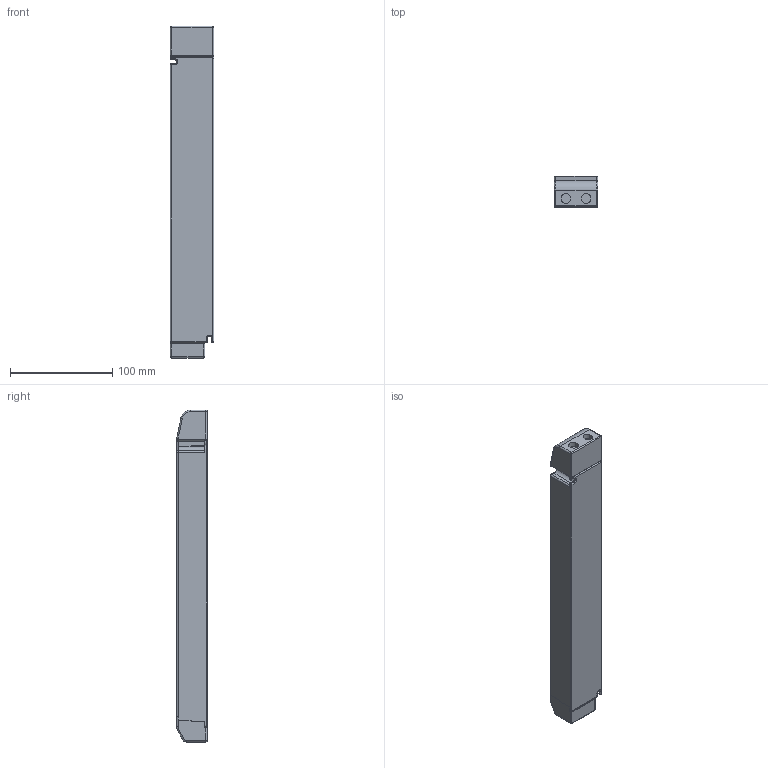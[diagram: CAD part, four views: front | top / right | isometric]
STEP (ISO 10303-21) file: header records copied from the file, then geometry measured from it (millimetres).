
FILE_DESCRIPTION((''),'2;1');
FILE_NAME('15012825_00','2019-03-05T14:13:47',('elon.guo'),(''),'CREO PARAMETRIC BY PTC INC, 2017380','CREO PARAMETRIC BY PTC INC, 2017380','');
FILE_SCHEMA(('AUTOMOTIVE_DESIGN { 1 0 10303 214 1 1 1 1 }'));
Length unit declared in the file: millimetre
Products named in the file (1): 15012825_00
Bounding box: 43 x 30.2 x 325 mm (x, y, z)
Volume: 386085.4 mm3; surface area: 60451.2 mm2
Topology: 1 solids, 1 shells, 534 faces, 1510 edges, 952 vertices
Faces by surface type: plane 335, cylinder 146, cone 16, torus 13, sphere 12, bspline 12
Entity records: 22294 total; most frequent: CARTESIAN_POINT 3552, ORIENTED_EDGE 2964, DIRECTION 2800, PRESENTATION_STYLE_ASSIGNMENT 1483, STYLED_ITEM 1483, CURVE_STYLE 1482, EDGE_CURVE 1482, VECTOR 1088
